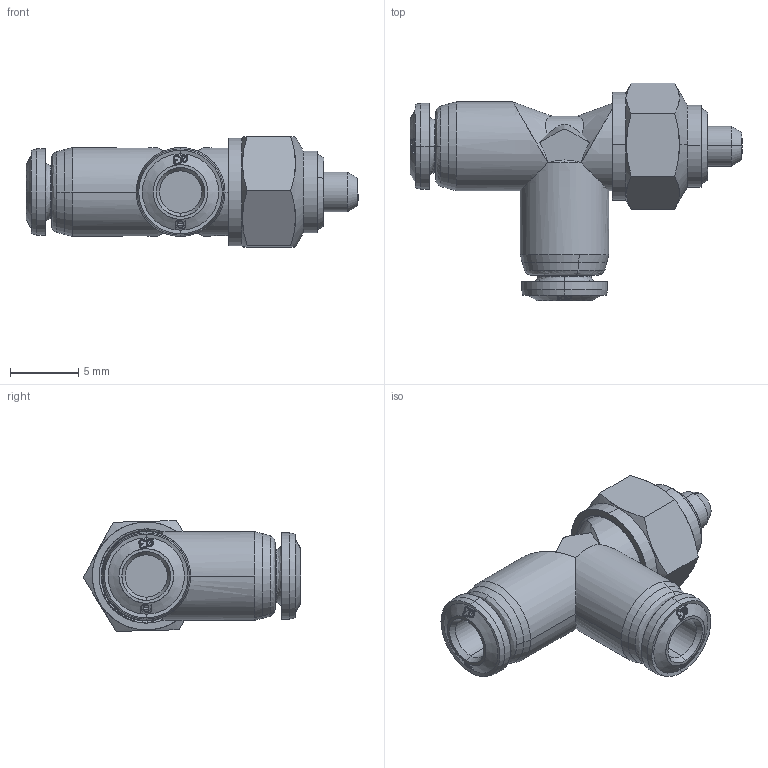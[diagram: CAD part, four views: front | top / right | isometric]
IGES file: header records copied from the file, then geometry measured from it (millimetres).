
Start section: SolidWorks IGES file using analytic representation for surfaces
Global section: file name: K:\Disegni Esecutivi\Serie 56000\ASSIEMI_56000\56225\ASSIEMI_PIENI_56225\5622500003.IGS; native system: SolidWorks 2008; preprocessor: SolidWorks 2008; author: cad02; date: 080221.095431; units: millimetre
Bounding box: 24.32 x 15.94 x 8.12 mm (x, y, z)
Surface area: 953 mm2 (no closed solid volume)
Topology: 0 solids, 0 shells, 247 faces, 2748 edges, 2748 vertices
Faces by surface type: bspline 155, revolution 92
